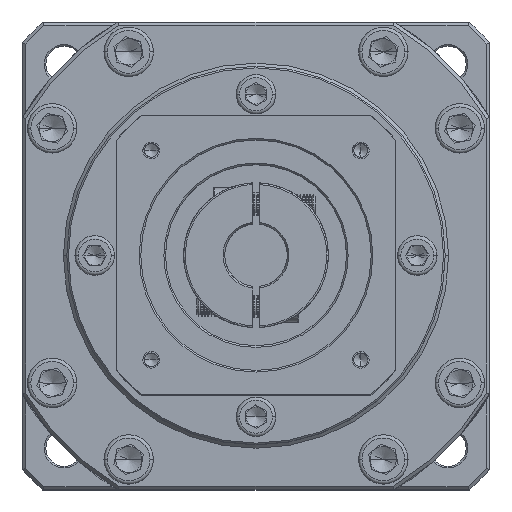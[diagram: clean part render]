
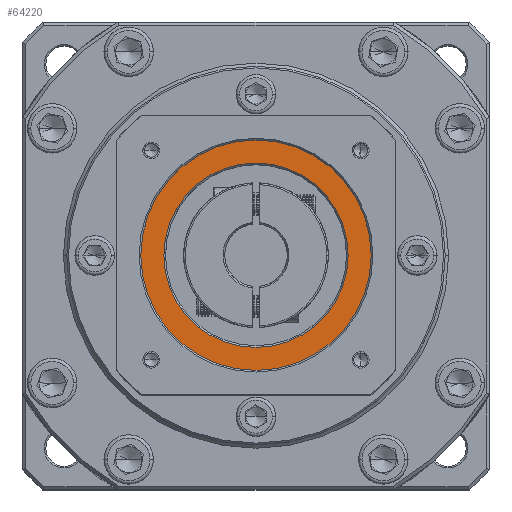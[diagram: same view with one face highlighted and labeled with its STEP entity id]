
A CAD part, top view. The second image highlights one B-rep face of the part: STEP entity #64220.
In plain terms, the highlighted planar face has unit normal (0, 0, 1).
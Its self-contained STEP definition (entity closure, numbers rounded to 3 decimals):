
#7345 = PLANE ( 'NONE',  #20057 ) ;
#9355 = CARTESIAN_POINT ( 'NONE',  ( -119.295, 33.286, 8.358 ) ) ;
#10281 = DIRECTION ( 'NONE',  ( 0., 0., 1. ) ) ;
#10719 = DIRECTION ( 'NONE',  ( 1., 0., 0. ) ) ;
#12795 = AXIS2_PLACEMENT_3D ( 'NONE', #124474, #94920, #83805 ) ;
#16116 = EDGE_CURVE ( 'NONE', #25120, #80451, #70637, .T. ) ;
#18207 = EDGE_CURVE ( 'NONE', #74889, #51825, #121641, .T. ) ;
#20057 = AXIS2_PLACEMENT_3D ( 'NONE', #49138, #10281, #10719 ) ;
#22254 = DIRECTION ( 'NONE',  ( 0., 0., 1. ) ) ;
#25120 = VERTEX_POINT ( 'NONE', #9355 ) ;
#25972 = CARTESIAN_POINT ( 'NONE',  ( -112.295, 33.286, 8.358 ) ) ;
#28830 = FACE_BOUND ( 'NONE', #38293, .T. ) ;
#32559 = EDGE_CURVE ( 'NONE', #80451, #25120, #89303, .T. ) ;
#38293 = EDGE_LOOP ( 'NONE', ( #82869, #43239 ) ) ;
#43239 = ORIENTED_EDGE ( 'NONE', *, *, #83869, .T. ) ;
#44374 = DIRECTION ( 'NONE',  ( 1., 0., 0. ) ) ;
#49138 = CARTESIAN_POINT ( 'NONE',  ( -84.295, 33.286, 8.358 ) ) ;
#49711 = ORIENTED_EDGE ( 'NONE', *, *, #16116, .T. ) ;
#50656 = CARTESIAN_POINT ( 'NONE',  ( -49.295, 33.286, 8.358 ) ) ;
#51825 = VERTEX_POINT ( 'NONE', #25972 ) ;
#54263 = CARTESIAN_POINT ( 'NONE',  ( -84.295, 33.286, 8.358 ) ) ;
#64055 = DIRECTION ( 'NONE',  ( 1., 0., 0. ) ) ;
#64220 = ADVANCED_FACE ( 'NONE', ( #74537, #28830 ), #7345, .T. ) ;
#69400 = ORIENTED_EDGE ( 'NONE', *, *, #32559, .T. ) ;
#70637 = CIRCLE ( 'NONE', #104140, 35. ) ;
#72551 = AXIS2_PLACEMENT_3D ( 'NONE', #112244, #103210, #44374 ) ;
#74537 = FACE_OUTER_BOUND ( 'NONE', #116946, .T. ) ;
#74889 = VERTEX_POINT ( 'NONE', #78803 ) ;
#75175 = AXIS2_PLACEMENT_3D ( 'NONE', #54263, #122561, #64055 ) ;
#78803 = CARTESIAN_POINT ( 'NONE',  ( -56.295, 33.286, 8.358 ) ) ;
#79394 = CARTESIAN_POINT ( 'NONE',  ( -84.295, 33.286, 8.358 ) ) ;
#80451 = VERTEX_POINT ( 'NONE', #50656 ) ;
#82869 = ORIENTED_EDGE ( 'NONE', *, *, #18207, .T. ) ;
#83805 = DIRECTION ( 'NONE',  ( 1., 0., 0. ) ) ;
#83869 = EDGE_CURVE ( 'NONE', #51825, #74889, #92478, .T. ) ;
#89303 = CIRCLE ( 'NONE', #12795, 35. ) ;
#92478 = CIRCLE ( 'NONE', #75175, 28. ) ;
#94920 = DIRECTION ( 'NONE',  ( 0., 0., 1. ) ) ;
#103210 = DIRECTION ( 'NONE',  ( 0., 0., -1. ) ) ;
#104140 = AXIS2_PLACEMENT_3D ( 'NONE', #79394, #22254, #119205 ) ;
#112244 = CARTESIAN_POINT ( 'NONE',  ( -84.295, 33.286, 8.358 ) ) ;
#116946 = EDGE_LOOP ( 'NONE', ( #69400, #49711 ) ) ;
#119205 = DIRECTION ( 'NONE',  ( 1., 0., 0. ) ) ;
#121641 = CIRCLE ( 'NONE', #72551, 28. ) ;
#122561 = DIRECTION ( 'NONE',  ( 0., 0., -1. ) ) ;
#124474 = CARTESIAN_POINT ( 'NONE',  ( -84.295, 33.286, 8.358 ) ) ;
